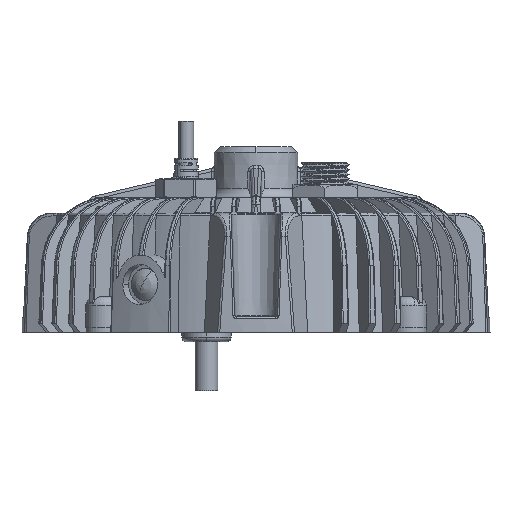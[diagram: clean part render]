
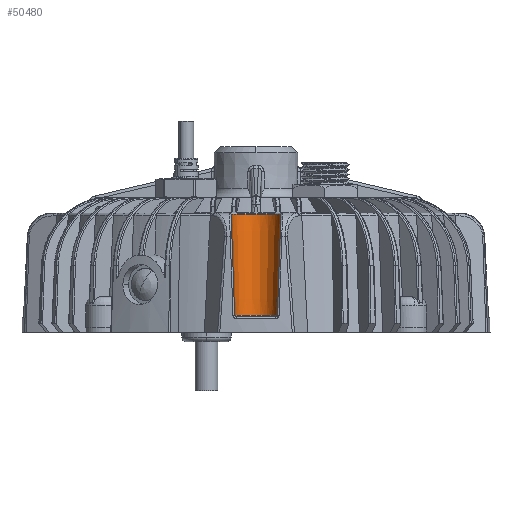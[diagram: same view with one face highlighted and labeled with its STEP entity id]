
A CAD part, left-side view. The second image highlights one B-rep face of the part: STEP entity #50480.
In plain terms, the highlighted conical face has half-angle 2 degrees and reference radius 8.056 mm.
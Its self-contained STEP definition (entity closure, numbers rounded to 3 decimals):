
#47950=CARTESIAN_POINT('',(591.482,493.455,
41.716));
#47960=DIRECTION('',(0.,-0.035,-0.999));
#47970=VECTOR('',#47960,1.);
#47980=LINE('',#47950,#47970);
#47990=CARTESIAN_POINT('',(591.482,493.455,
41.716));
#48000=VERTEX_POINT('',#47990);
#48010=CARTESIAN_POINT('',(591.482,492.316,
9.083));
#48020=VERTEX_POINT('',#48010);
#48030=EDGE_CURVE('',#48000,#48020,#47980,.T.);
#49300=CARTESIAN_POINT('',(591.482,478.517,
9.083));
#49310=VERTEX_POINT('',#49300);
#49360=CARTESIAN_POINT('',(591.482,477.377,
41.716));
#49370=DIRECTION('',(0.,0.035,-0.999));
#49380=VECTOR('',#49370,1.);
#49390=LINE('',#49360,#49380);
#49400=CARTESIAN_POINT('',(591.482,477.377,
41.716));
#49410=VERTEX_POINT('',#49400);
#49420=EDGE_CURVE('',#49410,#49310,#49390,.T.);
#49950=CARTESIAN_POINT('',(591.482,485.416,
42.217));
#49960=DIRECTION('',(0.,0.,1.));
#49970=DIRECTION('',(1.,0.,0.));
#49980=AXIS2_PLACEMENT_3D('',#49950,#49960,#49970);
#49990=CONICAL_SURFACE('',#49980,8.056,0.035);
#50000=CARTESIAN_POINT('',(591.618,493.454,
41.717));
#50010=CARTESIAN_POINT('',(591.6,493.454,
41.717));
#50020=CARTESIAN_POINT('',(591.582,493.455,
41.717));
#50030=CARTESIAN_POINT('',(591.559,493.455,
41.717));
#50040=CARTESIAN_POINT('',(591.554,493.455,
41.717));
#50050=CARTESIAN_POINT('',(591.545,493.455,
41.717));
#50060=CARTESIAN_POINT('',(591.541,493.455,
41.717));
#50070=CARTESIAN_POINT('',(591.518,493.455,
41.717));
#50080=CARTESIAN_POINT('',(591.5,493.455,
41.716));
#50090=CARTESIAN_POINT('',(591.482,493.455,
41.716));
#50100=B_SPLINE_CURVE_WITH_KNOTS('',3,(#50000,#50010,#50020,#50030,
#50040,#50050,#50060,#50070,#50080,#50090),.UNSPECIFIED.,.F.,.F.,(4,2,2,
2,4),(0.,0.4,0.5,0.6,1.),
.UNSPECIFIED.);
#50110=CARTESIAN_POINT('',(591.618,493.454,
41.717));
#50120=VERTEX_POINT('',#50110);
#50130=EDGE_CURVE('',#50120,#48000,#50100,.T.);
#50140=ORIENTED_EDGE('',*,*,#50130,.T.);
#50150=CARTESIAN_POINT('',(591.482,485.416,
41.717));
#50160=DIRECTION('',(0.,0.,1.));
#50170=DIRECTION('',(1.,0.,0.));
#50180=AXIS2_PLACEMENT_3D('',#50150,#50160,#50170);
#50190=CIRCLE('',#50180,8.039);
#50200=CARTESIAN_POINT('',(591.618,477.378,
41.717));
#50210=VERTEX_POINT('',#50200);
#50220=EDGE_CURVE('',#50210,#50120,#50190,.T.);
#50230=ORIENTED_EDGE('',*,*,#50220,.T.);
#50240=CARTESIAN_POINT('',(591.482,477.377,
41.716));
#50250=CARTESIAN_POINT('',(591.5,477.377,
41.716));
#50260=CARTESIAN_POINT('',(591.518,477.377,
41.717));
#50270=CARTESIAN_POINT('',(591.541,477.377,
41.717));
#50280=CARTESIAN_POINT('',(591.545,477.377,
41.717));
#50290=CARTESIAN_POINT('',(591.554,477.378,
41.717));
#50300=CARTESIAN_POINT('',(591.559,477.378,
41.717));
#50310=CARTESIAN_POINT('',(591.582,477.378,
41.717));
#50320=CARTESIAN_POINT('',(591.6,477.378,
41.717));
#50330=CARTESIAN_POINT('',(591.618,477.378,
41.717));
#50340=B_SPLINE_CURVE_WITH_KNOTS('',3,(#50240,#50250,#50260,#50270,
#50280,#50290,#50300,#50310,#50320,#50330),.UNSPECIFIED.,.F.,.F.,(4,2,2,
2,4),(0.,0.4,0.5,0.6,1.),
.UNSPECIFIED.);
#50350=EDGE_CURVE('',#49410,#50210,#50340,.T.);
#50360=ORIENTED_EDGE('',*,*,#50350,.T.);
#50370=ORIENTED_EDGE('',*,*,#49420,.F.);
#50380=CARTESIAN_POINT('',(591.482,485.416,
9.083));
#50390=DIRECTION('',(0.,0.,1.));
#50400=DIRECTION('',(1.,0.,0.));
#50410=AXIS2_PLACEMENT_3D('',#50380,#50390,#50400);
#50420=CIRCLE('',#50410,6.899);
#50430=EDGE_CURVE('',#49310,#48020,#50420,.T.);
#50440=ORIENTED_EDGE('',*,*,#50430,.F.);
#50450=ORIENTED_EDGE('',*,*,#48030,.T.);
#50460=EDGE_LOOP('',(#50450,#50440,#50370,#50360,#50230,#50140));
#50470=FACE_OUTER_BOUND('',#50460,.T.);
#50480=ADVANCED_FACE('',(#50470),#49990,.F.);
